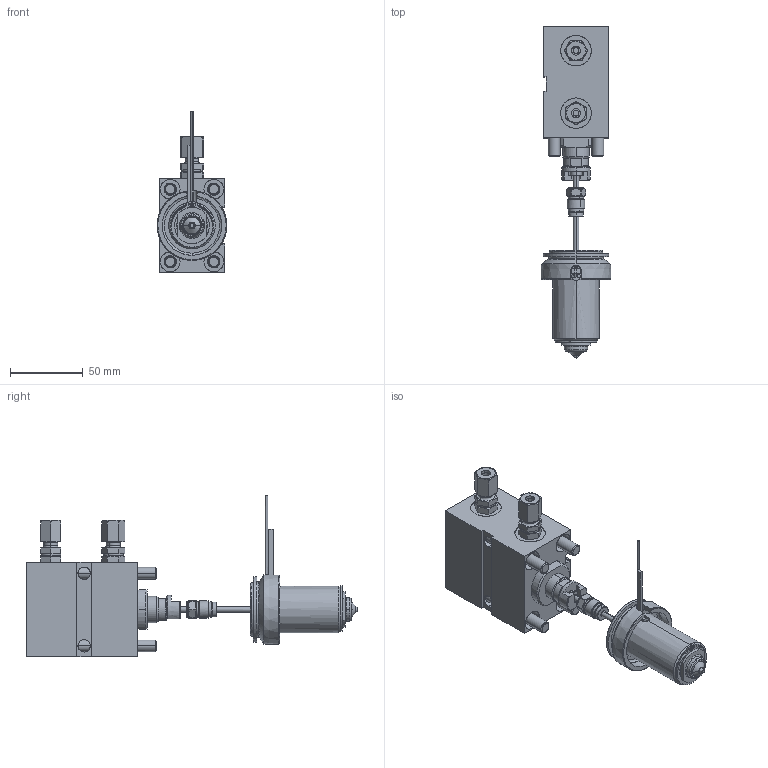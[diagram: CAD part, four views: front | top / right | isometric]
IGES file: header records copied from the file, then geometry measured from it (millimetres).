
Start section: Write IGES format                                    datakit 2008 (c)
Global section: file name: Unknown; native system: DATAKIT Converter; preprocessor: Unknown; author: Unknown; organization: Unknown; date: 950613.180003; units: millimetre
Bounding box: 47.96 x 228.5 x 111.15 mm (x, y, z)
Surface area: 110312.9 mm2 (no closed solid volume)
Topology: 0 solids, 0 shells, 748 faces, 3366 edges, 3352 vertices
Faces by surface type: revolution 472, bspline 276
